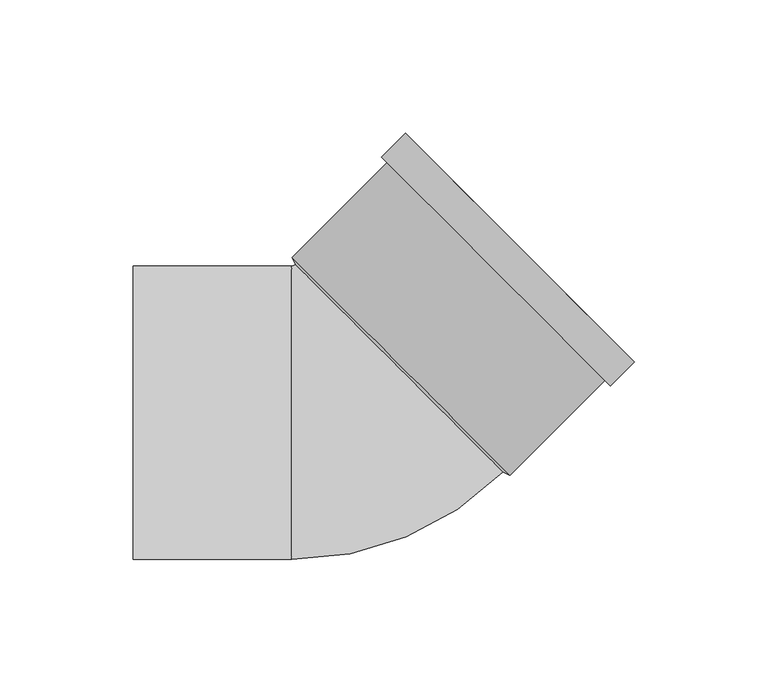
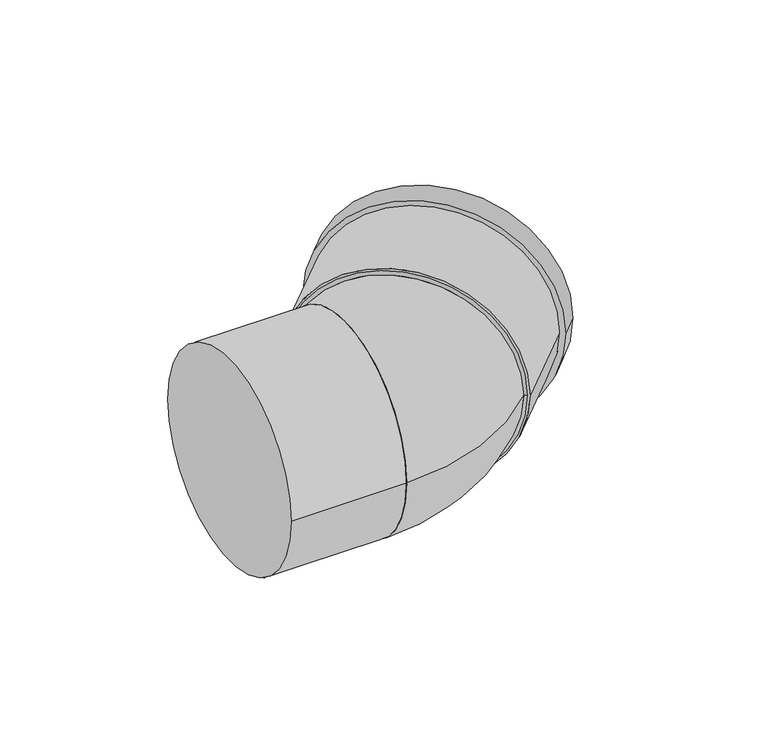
"""IFC4 building model written with IfcOpenShell, lengths in millimetres: pipe fitting geometry, Superdrain HT bend : Superdrain HT Bend."""

import ifcopenshell
import ifcopenshell.guid

model = None  # the IFC model being written
_history = None  # IfcOwnerHistory: only IFC2X3 demands one
_inside = {}  # id of a spatial element -> (the spatial element, [elements in it])
_under = {}  # id of a project, library or spatial element -> (it, [spatial elements below it])
_declared = {}  # id of a project -> (the project, [libraries it declares])
_typed = {}  # id of a type object -> (the type object, [elements of that type])
_made_of = {}  # id of a material, layer set ... -> (it, [elements and type objects made of it])


def new_model(schema):
    """Start an empty IFC model of exactly this schema.

    Asked for "IFC4X3", IfcOpenShell would pick the latest addendum, in which some entities
    have other attributes; the version numbers below select the first issue.
    IFC2X3 requires an IfcOwnerHistory on every rooted entity: one is made here for all.
    """
    global model, _history
    if schema == "IFC4X3":
        model = ifcopenshell.file(schema_version=(4, 3, 0, 0))
    else:
        model = ifcopenshell.file(schema=schema)
    _inside.clear()
    _under.clear()
    _declared.clear()
    _typed.clear()
    _made_of.clear()
    _history = None
    if model.schema == "IFC2X3":
        org = make("IfcOrganization", Name="unknown")
        user = make(
            "IfcPersonAndOrganization",
            ThePerson=make("IfcPerson", FamilyName="unknown"),
            TheOrganization=org,
        )
        app = make(
            "IfcApplication",
            ApplicationDeveloper=org,
            Version="unknown",
            ApplicationFullName="unknown",
            ApplicationIdentifier="unknown",
        )
        _history = make(
            "IfcOwnerHistory",
            OwningUser=user,
            OwningApplication=app,
            ChangeAction="ADDED",
            CreationDate=0,
        )
    return model


def make(cls, **values):
    """One entity of the class cls with the attributes given. An attribute that is None is left unset."""
    return model.create_entity(
        cls, **{name: value for name, value in values.items() if value is not None}
    )


def rooted(cls, **values):
    """An entity with a GlobalId (a new one), such as an element, a storey or a relation."""
    return make(cls, GlobalId=ifcopenshell.guid.new(), OwnerHistory=_history, **values)


def si_unit(unit_type, name, prefix=None):
    """IfcSIUnit, for example si_unit("LENGTHUNIT", "METRE", prefix="MILLI")."""
    return make("IfcSIUnit", UnitType=unit_type, Prefix=prefix, Name=name)


def assignment(units):
    """IfcUnitAssignment: the units of a project."""
    return None if units is None else make("IfcUnitAssignment", Units=units)


def point(xyz):
    """IfcCartesianPoint."""
    return None if xyz is None else make("IfcCartesianPoint", Coordinates=xyz)


def direction(xyz):
    """IfcDirection."""
    return None if xyz is None else make("IfcDirection", DirectionRatios=xyz)


def frame(location, z_axis=None, x_axis=None):
    """IfcAxis2Placement3D, a coordinate frame: its origin and axes. An axis left out is left unset."""
    return make(
        "IfcAxis2Placement3D",
        Location=point(location),
        Axis=direction(z_axis),
        RefDirection=direction(x_axis),
    )


def frame_2d(location, x_axis=None):
    """IfcAxis2Placement2D, a coordinate frame in the plane: its origin and x axis."""
    return make(
        "IfcAxis2Placement2D", Location=point(location), RefDirection=direction(x_axis)
    )


def origin():
    """The frame at (0, 0, 0) with its axes left unset."""
    return frame((0.0, 0.0, 0.0))


def origin_2d():
    """The frame at (0, 0) in the plane with its x axis left unset."""
    return frame_2d((0.0, 0.0))


def place(relative_to, where):
    """IfcLocalPlacement: puts the frame where relative to a parent placement (None: the world)."""
    return make(
        "IfcLocalPlacement", PlacementRelTo=relative_to, RelativePlacement=where
    )


def context(
    kind, dimensions, precision=None, world=None, true_north=None, identifier=None
):
    """IfcGeometricRepresentationContext, for example the 3D "Model" context."""
    return make(
        "IfcGeometricRepresentationContext",
        ContextIdentifier=identifier,
        ContextType=kind,
        CoordinateSpaceDimension=dimensions,
        Precision=precision,
        WorldCoordinateSystem=world,
        TrueNorth=true_north,
    )


def project(units=None, contexts=None):
    """IfcProject with its units and contexts."""
    return rooted(
        "IfcProject",
        Name="project",
        RepresentationContexts=contexts,
        UnitsInContext=assignment(units),
    )


def spatial(cls, under=None, at=None, **own):
    """A site, building, storey or space (cls), placed at a placement, below another one or the project."""
    s = rooted(cls, ObjectPlacement=at, **own)
    if under is not None:
        _under.setdefault(under.id(), (under, []))[1].append(s)
    return s


def polyline(points):
    """IfcPolyline through the points."""
    return make("IfcPolyline", Points=[point(p) for p in points])


def circle_curve(where, radius):
    """IfcCircle in the frame where."""
    return make("IfcCircle", Position=where, Radius=radius)


def ellipse_curve(where, semi_axis1, semi_axis2):
    """IfcEllipse in the frame where."""
    return make(
        "IfcEllipse", Position=where, SemiAxis1=semi_axis1, SemiAxis2=semi_axis2
    )


def trimmed(basis, trim1, trim2, sense, master):
    """IfcTrimmedCurve: the piece of a basis curve between two trims."""
    return make(
        "IfcTrimmedCurve",
        BasisCurve=basis,
        Trim1=trim1,
        Trim2=trim2,
        SenseAgreement=sense,
        MasterRepresentation=master,
    )


def segment(curve, same_sense, transition):
    """IfcCompositeCurveSegment."""
    return make(
        "IfcCompositeCurveSegment",
        Transition=transition,
        SameSense=same_sense,
        ParentCurve=curve,
    )


def composite_curve(segments, self_intersect=None):
    """IfcCompositeCurve: segments joined end to end."""
    return make("IfcCompositeCurve", Segments=segments, SelfIntersect=self_intersect)


def outline(outer, holes=None, kind="AREA"):
    """IfcArbitraryClosedProfileDef: a profile drawn as a closed curve; with holes, ...WithVoids."""
    if holes is None:
        return make("IfcArbitraryClosedProfileDef", ProfileType=kind, OuterCurve=outer)
    return make(
        "IfcArbitraryProfileDefWithVoids",
        ProfileType=kind,
        OuterCurve=outer,
        InnerCurves=holes,
    )


def extrude(swept, where, along, depth):
    """IfcExtrudedAreaSolid: the profile swept, set in the frame where, extruded along a direction by depth."""
    return make(
        "IfcExtrudedAreaSolid",
        SweptArea=swept,
        Position=where,
        ExtrudedDirection=direction(along),
        Depth=depth,
    )


def shape(context_of_items, identifier, shape_type, items):
    """IfcShapeRepresentation: the items that make up one representation, for example the "Body"."""
    return make(
        "IfcShapeRepresentation",
        ContextOfItems=context_of_items,
        RepresentationIdentifier=identifier,
        RepresentationType=shape_type,
        Items=items,
    )


def source(mapping_origin, context_of_items, identifier, shape_type, items):
    """IfcRepresentationMap: a shape defined once, which mapped items show again and again."""
    return make(
        "IfcRepresentationMap",
        MappingOrigin=mapping_origin,
        MappedRepresentation=shape(context_of_items, identifier, shape_type, items),
    )


def transform(
    local_origin,
    x_axis=None,
    y_axis=None,
    z_axis=None,
    scale=None,
    scale2=None,
    scale3=None,
    uniform=True,
):
    """IfcCartesianTransformationOperator3D, or its non-uniform kind. x_axis, y_axis, z_axis: its Axis1, 2, 3."""
    if uniform:
        return make(
            "IfcCartesianTransformationOperator3D",
            Axis1=direction(x_axis),
            Axis2=direction(y_axis),
            LocalOrigin=point(local_origin),
            Scale=scale,
            Axis3=direction(z_axis),
        )
    return make(
        "IfcCartesianTransformationOperator3DnonUniform",
        Axis1=direction(x_axis),
        Axis2=direction(y_axis),
        LocalOrigin=point(local_origin),
        Scale=scale,
        Axis3=direction(z_axis),
        Scale2=scale2,
        Scale3=scale3,
    )


def mapped(mapping_source, mapping_target):
    """IfcMappedItem: shows the shape of a source again, moved by a transform."""
    return make(
        "IfcMappedItem", MappingSource=mapping_source, MappingTarget=mapping_target
    )


def made_of(thing, what):
    """Note that an element or type object is made of a material, layer set ...; save() writes the relation."""
    if what is not None:
        _made_of.setdefault(what.id(), (what, []))[1].append(thing)
    return thing


def element(
    cls,
    number,
    at=None,
    inside=None,
    cuts=None,
    type_object=None,
    material=None,
    context=None,
    identifier="Body",
    shape_type=None,
    held_by="IfcProductDefinitionShape",
    body=None,
    shapes=None,
    **own,
):
    """One element of the class cls, such as IfcWall. Its Tag is "e" and its number.

    at: its placement. inside: the storey or other place that contains it. cuts: it is an
    opening in that element (IfcRelVoidsElement). A single representation is given by context,
    identifier, shape_type and body (its items); several are given by shapes. held_by: the class
    of the entity that holds the representations. save() writes the other relations.
    """
    e = rooted(cls, Tag="e%d" % number, ObjectPlacement=at, **own)
    if body is not None:
        shapes = [shape(context, identifier, shape_type, body)]
    if shapes is not None:
        e.Representation = make(held_by, Representations=shapes)
    if inside is not None:
        _inside.setdefault(inside.id(), (inside, []))[1].append(e)
    if cuts is not None:
        rooted(
            "IfcRelVoidsElement", RelatingBuildingElement=cuts, RelatedOpeningElement=e
        )
    if type_object is not None:
        _typed.setdefault(type_object.id(), (type_object, []))[1].append(e)
    return made_of(e, material)


def aggregate(whole, parts):
    """IfcRelAggregates: a whole, such as a stair, and the parts it consists of."""
    return rooted("IfcRelAggregates", RelatingObject=whole, RelatedObjects=parts)


def save(model, path):
    """Write the relations noted so far, then the file.

    IfcRelAggregates (storeys below a building ...), IfcRelContainedInSpatialStructure (elements
    in a storey), IfcRelDefinesByType, IfcRelAssociatesMaterial and IfcRelDeclares: one each for
    every whole, place, type object, material and project.
    """
    for whole, parts in _under.values():
        aggregate(whole, parts)
    for where, things in _inside.values():
        rooted(
            "IfcRelContainedInSpatialStructure",
            RelatedElements=things,
            RelatingStructure=where,
        )
    for kind, things in _typed.values():
        rooted("IfcRelDefinesByType", RelatedObjects=things, RelatingType=kind)
    for what, things in _made_of.values():
        rooted("IfcRelAssociatesMaterial", RelatedObjects=things, RelatingMaterial=what)
    for by, libraries in _declared.values():
        rooted("IfcRelDeclares", RelatingContext=by, RelatedDefinitions=libraries)
    model.write(path)


def plane_surface(at):
    """IfcPlane: the flat surface through the origin of the frame at, square to its z axis."""
    return make("IfcPlane", Position=at)


def revolved_surface(curve, axis_point, axis_direction):
    """IfcSurfaceOfRevolution: the curve turned about the line through axis_point along axis_direction."""
    return make(
        "IfcSurfaceOfRevolution",
        SweptCurve=make("IfcArbitraryOpenProfileDef", ProfileType="CURVE", Curve=curve),
        AxisPosition=make("IfcAxis1Placement", Location=point(axis_point), Axis=direction(axis_direction)),
    )


def advanced_brep(points, edges, surfaces, faces):
    """IfcAdvancedBrep: a solid bounded by faces that lie on surfaces and meet in shared edges.

    An edge is (start, end): straight between two places in points (the first is 0);
    or (start, end, curve); or (start, end, curve, False) where it runs against its curve.
    A face is (place in surfaces, loops), or (place, loops, False) where it looks against
    its surface's normal. A loop lists edges by number (the first is 1), with a minus sign
    where the edge is run from its end to its start. The first loop is the outer one.
    """
    corners = [point(p) for p in points]
    vertices = [make("IfcVertexPoint", VertexGeometry=c) for c in corners]
    made = []
    for start, end, *more in edges:
        made.append(
            make(
                "IfcEdgeCurve",
                EdgeStart=vertices[start],
                EdgeEnd=vertices[end],
                EdgeGeometry=more[0] if more else make("IfcPolyline", Points=[corners[start], corners[end]]),
                SameSense=more[1] if len(more) > 1 else True,
            )
        )
    hull = []
    for where, loops, *sense in faces:
        bounds = []
        for j, loop in enumerate(loops):
            ring = [make("IfcOrientedEdge", EdgeElement=made[abs(k) - 1], Orientation=k > 0) for k in loop]
            bounds.append(
                make(
                    "IfcFaceOuterBound" if j == 0 else "IfcFaceBound",
                    Bound=make("IfcEdgeLoop", EdgeList=ring),
                    Orientation=True,
                )
            )
        hull.append(make("IfcAdvancedFace", Bounds=bounds, FaceSurface=surfaces[where], SameSense=sense[0] if sense else True))
    return make("IfcAdvancedBrep", Outer=make("IfcClosedShell", CfsFaces=hull))


def pipe_fitting_a134182b(model_context):
    return source(origin(), model_context, "Body", "SolidModel", [
        advanced_brep(
        [(55.578593, -22.2031529, 0.0), (-22.2031529, 55.578593, 0.0), (-23.6, -55.0, 0.0), (-23.6, 55.0, 0.0)],
        [
            (0, 1, circle_curve(frame((16.68772, 16.68772, 0.0), z_axis=(0.7071067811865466, 0.7071067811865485, 0.0), x_axis=(-0.7071067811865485, 0.7071067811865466, 0.0)), 55.0)),
            (1, 0, circle_curve(frame((16.68772, 16.68772, 0.0), z_axis=(0.7071067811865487, 0.7071067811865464, 0.0), x_axis=(-0.7071067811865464, 0.7071067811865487, 0.0)), 55.0)),
            (2, 3, circle_curve(frame((-23.6, 0.0, 0.0), z_axis=(-1.0, 0.0, 0.0), x_axis=(0.0, 1.0, 0.0)), 55.0)),
            (3, 2, circle_curve(frame((-23.6, 0.0, 0.0), z_axis=(-1.0, 0.0, 0.0), x_axis=(0.0, 1.0, 0.0)), 55.0)),
            (3, 1, circle_curve(frame((-23.6, 56.9754401, 0.0), z_axis=(0.0, 0.0, 1.0), x_axis=(1.0, 0.0, 0.0)), 1.9754401)),
            (0, 2, circle_curve(frame((-23.6, 56.9754401, 0.0), z_axis=(0.0, 0.0, -1.0), x_axis=(1.0, 0.0, 0.0)), 111.9754401)),
        ],
        [
            plane_surface(frame((16.68772, 16.68772, 0.0), z_axis=(0.7071067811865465, 0.7071067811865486, 0.0), x_axis=(0.0, 0.0, -1.0))),
            plane_surface(frame((-23.6, 0.0, 0.0), z_axis=(-1.0, 0.0, 0.0), x_axis=(0.0, 0.0, -1.0))),
            revolved_surface(trimmed(ellipse_curve(frame((33.3754401, 56.9754401, 0.0), z_axis=(0.0, -1.0, 0.0), x_axis=(-1.0, 0.0, 0.0)), 55.0, 55.0), [point((-21.6245599, 56.9754401, 0.0))], [point((88.3754401, 56.9754401, 0.0))], True, "CARTESIAN"), (-23.6, 56.9754401, 0.0), (0.0, 0.0, 1.0)),
            revolved_surface(trimmed(ellipse_curve(frame((33.3754401, 56.9754401, 0.0), z_axis=(0.0, -1.0, 0.0), x_axis=(-1.0, 0.0, 0.0)), 55.0, 55.0), [point((88.3754401, 56.9754401, 0.0))], [point((-21.6245599, 56.9754401, 0.0))], True, "CARTESIAN"), (-23.6, 56.9754401, 0.0), (0.0, 0.0, 1.0)),
        ],
        [
            (0, [[1, 2]]),
            (1, [[3, 4]]),
            (2, [[-4, 5, -1, 6]]),
            (3, [[-3, -6, -2, -5]]),
        ],
    ),
        extrude(outline(composite_curve([segment(trimmed(circle_curve(origin_2d(), 57.75), [point((0.0, 57.75))], [point((0.0, -57.75))], False, "CARTESIAN"), True, "CONTINUOUS"), segment(trimmed(circle_curve(origin_2d(), 57.75), [point((0.0, -57.75))], [point((0.0, 57.75))], False, "CARTESIAN"), True, "CONTINUOUS")], self_intersect=False), holes=[composite_curve([segment(trimmed(circle_curve(origin_2d(), 55.0), [point((0.0, 55.0))], [point((0.0, -55.0))], True, "CARTESIAN"), True, "CONTINUOUS"), segment(trimmed(circle_curve(origin_2d(), 55.0), [point((0.0, -55.0))], [point((0.0, 55.0))], True, "CARTESIAN"), True, "CONTINUOUS")], self_intersect=False)]), frame((17.3948268, 17.3948268, 0.0), z_axis=(0.7071067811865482, 0.7071067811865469, 0.0), x_axis=(0.0, 0.0, 1.0)), (0.0, 0.0, 1.0), 63.0),
        extrude(outline(composite_curve([segment(trimmed(circle_curve(origin_2d(), 60.6375), [point((0.0, -60.6375))], [point((0.0, 60.6375))], False, "CARTESIAN"), True, "CONTINUOUS"), segment(trimmed(circle_curve(origin_2d(), 60.6375), [point((0.0, 60.6375))], [point((0.0, -60.6375))], False, "CARTESIAN"), True, "CONTINUOUS")], self_intersect=False), holes=[composite_curve([segment(trimmed(circle_curve(origin_2d(), 55.0), [point((0.0, -55.0))], [point((0.0, 55.0))], True, "CARTESIAN"), True, "CONTINUOUS"), segment(trimmed(circle_curve(origin_2d(), 55.0), [point((0.0, 55.0))], [point((0.0, -55.0))], True, "CARTESIAN"), True, "CONTINUOUS")], self_intersect=False)]), frame((53.0330086, 53.0330086, 0.0), z_axis=(0.7071067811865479, 0.7071067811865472, 0.0), x_axis=(0.0, 0.0, 1.0)), (0.0, 0.0, 1.0), 12.6),
        advanced_brep(
        [(58.2302434, -23.4405898, 0.0), (-23.4405898, 58.2302434, 0.0), (55.578593, -22.2031529, 0.0), (-22.2031529, 55.578593, 0.0)],
        [
            (0, 1, circle_curve(frame((17.3948268, 17.3948268, 0.0), z_axis=(0.7071067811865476, 0.7071067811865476, 0.0), x_axis=(0.7071067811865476, -0.7071067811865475, 0.0)), 57.75)),
            (1, 0, circle_curve(frame((17.3948268, 17.3948268, 0.0), z_axis=(0.7071067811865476, 0.7071067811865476, 0.0), x_axis=(-0.7071067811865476, 0.7071067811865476, 0.0)), 57.75)),
            (2, 3, circle_curve(frame((16.68772, 16.68772, 0.0), z_axis=(-0.7071067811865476, -0.7071067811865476, 0.0), x_axis=(-0.7071067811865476, 0.7071067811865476, 0.0)), 55.0)),
            (3, 2, circle_curve(frame((16.68772, 16.68772, 0.0), z_axis=(-0.7071067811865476, -0.7071067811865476, 0.0), x_axis=(0.7071067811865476, -0.7071067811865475, 0.0)), 55.0)),
            (3, 1),
            (0, 2),
        ],
        [
            plane_surface(frame((17.3948268, 17.3948268, 0.0), z_axis=(0.7071067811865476, 0.7071067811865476, 0.0), x_axis=(0.0, 0.0, -1.0))),
            plane_surface(frame((16.68772, 16.68772, 0.0), z_axis=(-0.7071067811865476, -0.7071067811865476, 0.0), x_axis=(0.0, 0.0, -1.0))),
            revolved_surface(polyline([(-22.2031529, 55.5785929, 0.0), (-23.44058980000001, 58.23024340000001, 0.0)]), (2.5455844, 2.5455844, 0.0), (0.7071067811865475, 0.7071067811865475, 0.0)),
            revolved_surface(polyline([(55.5785929, -22.2031529, 0.0), (58.23024340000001, -23.44058980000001, 0.0)]), (2.5455844, 2.5455844, 0.0), (0.7071067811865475, 0.7071067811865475, 0.0)),
        ],
        [
            (0, [[1, 2]]),
            (1, [[3, 4]]),
            (2, [[-4, 5, -1, 6]]),
            (3, [[-3, -6, -2, -5]]),
        ],
    ),
        extrude(outline(composite_curve([segment(trimmed(circle_curve(origin_2d(), 55.0), [point((-55.0, 0.0))], [point((55.0, 0.0))], False, "CARTESIAN"), True, "CONTINUOUS"), segment(trimmed(circle_curve(origin_2d(), 55.0), [point((55.0, 0.0))], [point((-55.0, 0.0))], False, "CARTESIAN"), True, "CONTINUOUS")], self_intersect=False)), frame((-83.0, 0.0, 0.0), z_axis=(1.0, 0.0, 0.0), x_axis=(0.0, 1.0, 0.0)), (0.0, 0.0, 1.0), 59.4),
    ])


if __name__ == "__main__":
    model = new_model("IFC4")
    model_context = context("Model", 3, world=origin())
    ifc_project = project(units=[si_unit("LENGTHUNIT", "METRE", prefix="MILLI")], contexts=[model_context])
    site = spatial("IfcSite", under=ifc_project)
    building = spatial("IfcBuilding", under=site)
    placement = place(None, origin())
    pipe_fitting_shape = pipe_fitting_a134182b(model_context)
    element("IfcPipeFitting", 1, ObjectType="Superdrain HT bend : Superdrain HT Bend", at=placement, inside=building, context=model_context, shape_type="MappedRepresentation", body=[
        mapped(pipe_fitting_shape, transform((0.0, 0.0, 0.0), x_axis=(1.0, 0.0, 0.0), y_axis=(0.0, 1.0, 0.0), z_axis=(0.0, 0.0, 1.0))),
    ])
    save(model, "model.ifc")
